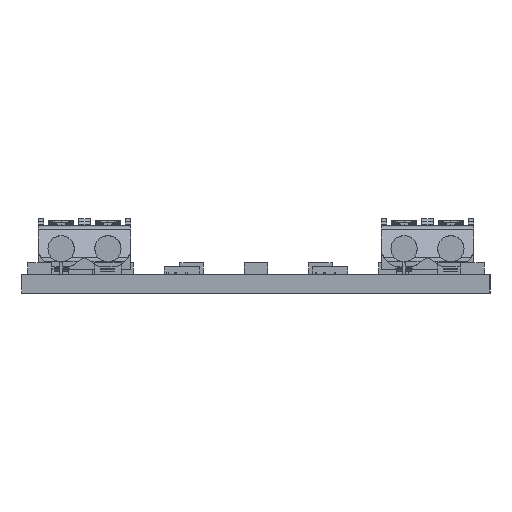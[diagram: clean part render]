
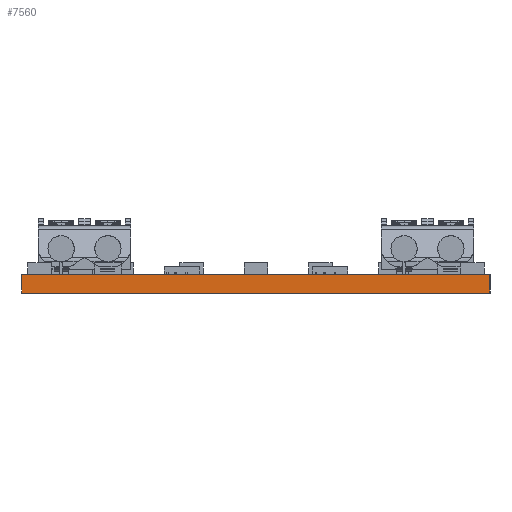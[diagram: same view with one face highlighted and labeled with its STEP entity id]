
A CAD part, left-side view. The second image highlights one B-rep face of the part: STEP entity #7560.
In plain terms, the highlighted planar face has unit normal (-1, 0, 0).
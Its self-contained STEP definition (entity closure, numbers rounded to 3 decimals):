
#37=DIRECTION('',(0.,-1.,0.));
#38=VECTOR('',#37,40.);
#39=CARTESIAN_POINT('',(-279.5,20.,0.));
#40=LINE('',#39,#38);
#1960=DIRECTION('',(0.,0.,1.));
#1961=VECTOR('',#1960,1.6);
#1962=CARTESIAN_POINT('',(-279.5,-20.,0.));
#1963=LINE('',#1962,#1961);
#1967=DIRECTION('',(0.,0.,1.));
#1968=VECTOR('',#1967,1.6);
#1969=CARTESIAN_POINT('',(-279.5,20.,0.));
#1970=LINE('',#1969,#1968);
#1995=DIRECTION('',(0.,-1.,0.));
#1996=VECTOR('',#1995,40.);
#1997=CARTESIAN_POINT('',(-279.5,20.,1.6));
#1998=LINE('',#1997,#1996);
#5836=CARTESIAN_POINT('',(-279.5,-20.,0.));
#5838=VERTEX_POINT('',#5836);
#5842=CARTESIAN_POINT('',(-279.5,20.,0.));
#5843=VERTEX_POINT('',#5842);
#6364=CARTESIAN_POINT('',(-279.5,-20.,1.6));
#6366=VERTEX_POINT('',#6364);
#6370=CARTESIAN_POINT('',(-279.5,20.,1.6));
#6371=VERTEX_POINT('',#6370);
#7547=CARTESIAN_POINT('',(-279.5,20.,0.));
#7548=DIRECTION('',(-1.,0.,0.));
#7549=DIRECTION('',(0.,-1.,0.));
#7550=AXIS2_PLACEMENT_3D('',#7547,#7548,#7549);
#7551=PLANE('',#7550);
#7552=ORIENTED_EDGE('',*,*,#6951,.F.);
#7554=ORIENTED_EDGE('',*,*,#7553,.T.);
#7556=ORIENTED_EDGE('',*,*,#7555,.T.);
#7557=ORIENTED_EDGE('',*,*,#7538,.F.);
#7558=EDGE_LOOP('',(#7552,#7554,#7556,#7557));
#7559=FACE_OUTER_BOUND('',#7558,.F.);
#6951=EDGE_CURVE('',#5843,#5838,#40,.T.);
#7538=EDGE_CURVE('',#5838,#6366,#1963,.T.);
#7553=EDGE_CURVE('',#5843,#6371,#1970,.T.);
#7555=EDGE_CURVE('',#6371,#6366,#1998,.T.);
#7560=ADVANCED_FACE('',(#7559),#7551,.T.);
